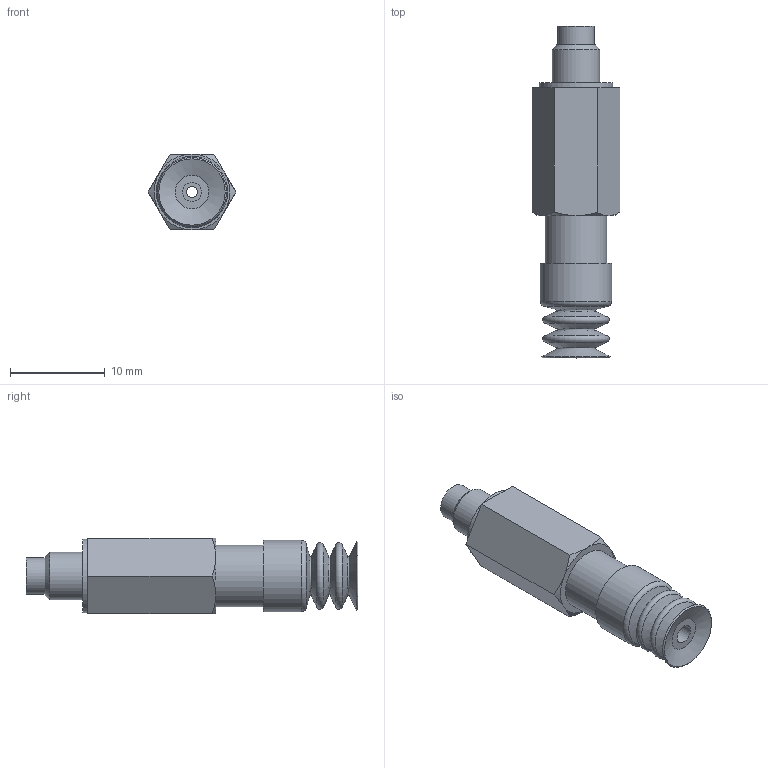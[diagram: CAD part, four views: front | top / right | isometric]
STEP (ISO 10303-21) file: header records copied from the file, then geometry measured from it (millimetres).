
FILE_DESCRIPTION(('STEP AP203'),'1');
FILE_NAME('.stp','2025-04-02T06:18:18',(' '),(' '),'Spatial InterOp 3D',' ',' ');
FILE_SCHEMA(('CONFIG_CONTROL_DESIGN'));
Length unit declared in the file: millimetre
Products named in the file (4): BPSS-L5-BPCG-7-※; PSS-7-L5-M; PSS-7-L5-F; BPCG-7-※
Assembly tree (3 placements, depth 2):
  BPSS-L5-BPCG-7-※
    PSS-7-L5-M
    PSS-7-L5-F
    BPCG-7-※
Bounding box: 9.24 x 35 x 8 mm (x, y, z)
Volume: 1221.3 mm3; surface area: 1902.2 mm2
Topology: 3 solids, 3 shells, 62 faces, 113 edges, 67 vertices
Faces by surface type: plane 22, cylinder 15, cone 15, torus 10
Full cylindrical faces by diameter (mm): 1.2 x1, 2 x1, 2.4 x2, 3.4 x1, 3.8 x1, 4 x2, 5 x1, 6 x2, 6.5 x2, 7.5 x1, 7.8 x1
Entity records: 1554 total; most frequent: DIRECTION 254, CARTESIAN_POINT 236, ORIENTED_EDGE 158, AXIS2_PLACEMENT_3D 121, EDGE_LOOP 112, FACE_OUTER_BOUND 87, EDGE_CURVE 79, VERTEX_POINT 67
